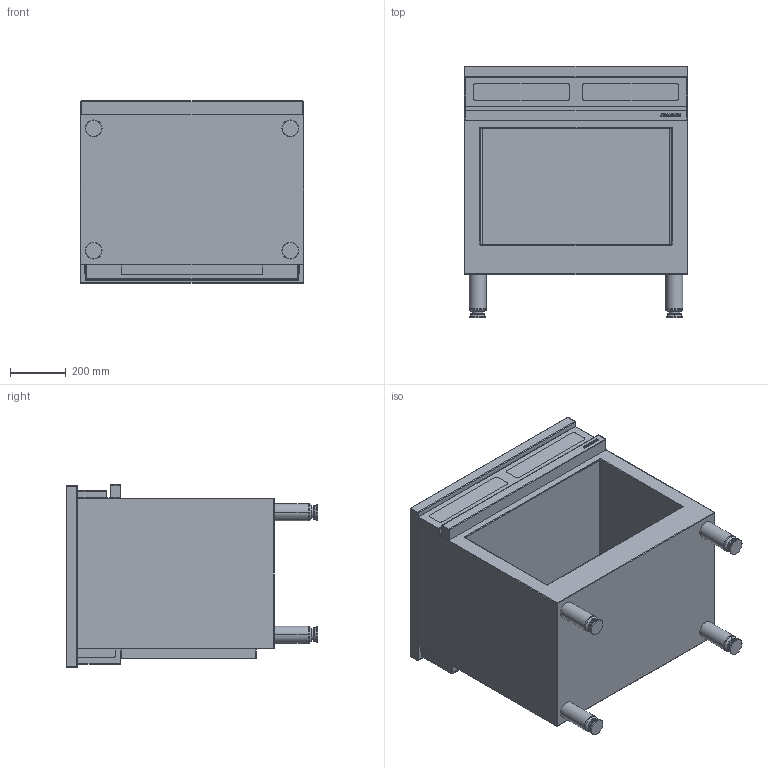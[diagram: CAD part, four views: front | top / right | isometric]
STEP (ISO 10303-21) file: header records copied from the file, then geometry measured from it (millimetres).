
FILE_DESCRIPTION((''),'2;1');
FILE_NAME('CME843IX_EXPORT_STEP_ASM','2017-11-22T',('r.avril'),(''),'PRO/ENGINEER BY PARAMETRIC TECHNOLOGY CORPORATION, 2014200','PRO/ENGINEER BY PARAMETRIC TECHNOLOGY CORPORATION, 2014200','');
FILE_SCHEMA(('AP203_CONFIGURATION_CONTROLLED_3D_DESIGN_OF_MECHANICAL_PARTS_AND_ASSEMBLIES_MIM_LF { 1 0 10303 403 2 1 2 }'));
Length unit declared in the file: millimetre
Products named in the file (5): MODULES_AMB_800_EXPORT_STEP; TABLE_843_IX; 65052008; TABLE_843_IX_ASM; CME843IX_EXPORT_STEP_ASM
Assembly tree (5 placements, depth 3):
  CME843IX_EXPORT_STEP_ASM
    MODULES_AMB_800_EXPORT_STEP
    TABLE_843_IX_ASM
      TABLE_843_IX
      65052008  x2
Bounding box: 800 x 900 x 652.1 mm (x, y, z)
Volume: 109483249.6 mm3; surface area: 6925284.3 mm2
Topology: 10 solids, 30 shells, 327 faces, 1455 edges, 1480 vertices
Faces by surface type: plane 126, cylinder 121, sphere 36, torus 28, cone 16
Entity records: 18201 total; most frequent: CARTESIAN_POINT 4568, DIRECTION 2120, ORIENTED_EDGE 1728, EDGE_CURVE 1097, VERTEX_POINT 828, AXIS2_PLACEMENT_3D 718, VECTOR 669, LINE 669
